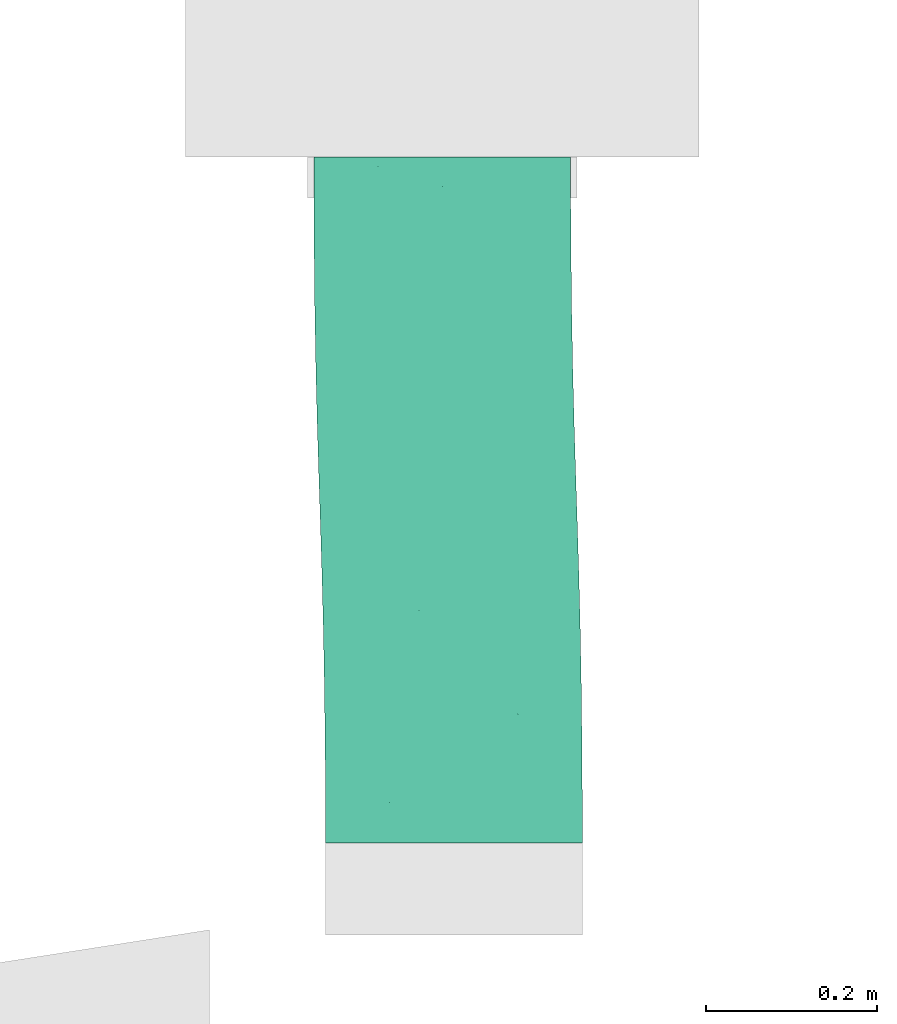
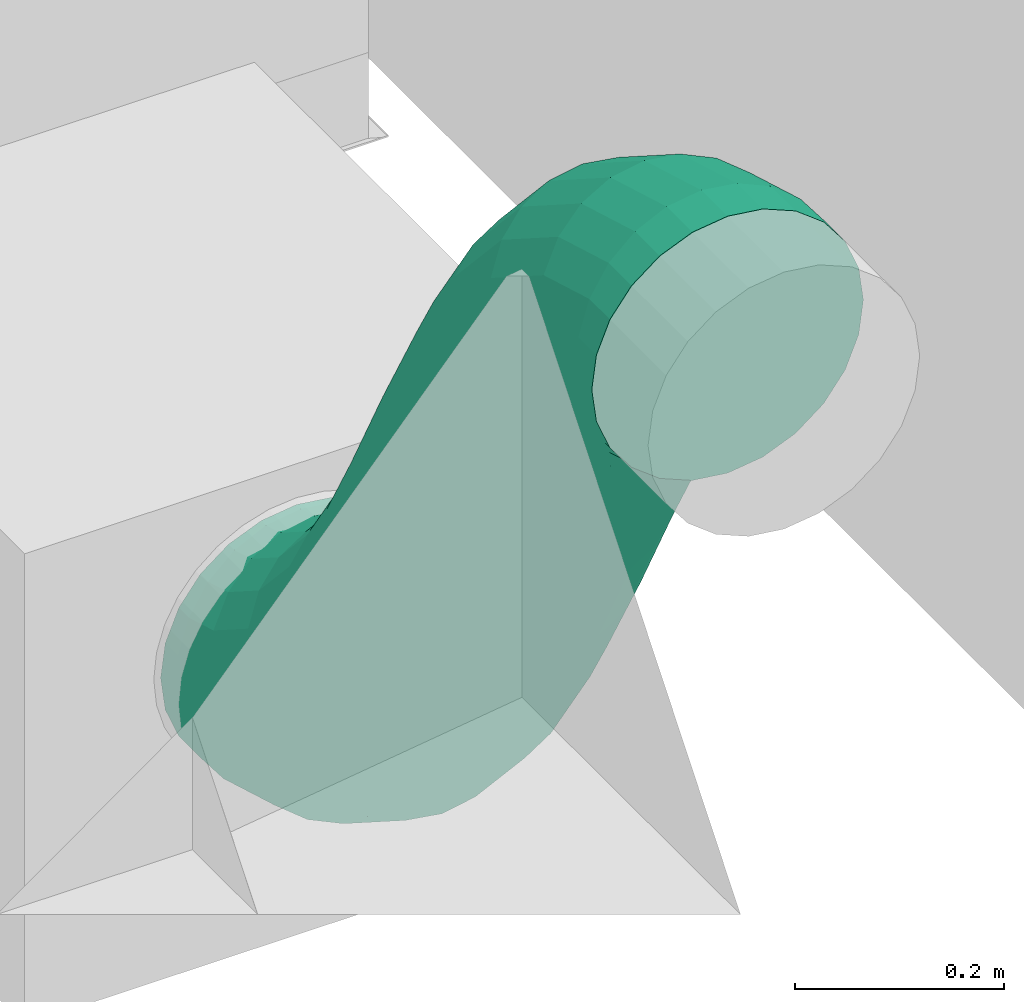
# One storey, part 53 of 60: 1 flow segment.
"""IFC2X3 building model written with IfcOpenShell, lengths in millimetres."""

from ifc_helpers import new_model, entity, si_unit, converted_unit, derived_unit, direction, frame, origin, place, context, subcontext, project, spatial, faceted_brep, type_object, element, save


model = new_model("IFC2X3")

# Units and contexts
model_context = context("Model", 3, precision=0.01, world=origin(), true_north=direction((6.123233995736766e-17, 1.0)))
body_context = subcontext(model_context, "Body", "Model", "MODEL_VIEW")
ifc_project = project(units=[si_unit("LENGTHUNIT", "METRE", prefix="MILLI"), converted_unit("PLANEANGLEUNIT", "DEGREE", entity("IfcPlaneAngleMeasure", 0.017453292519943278), si_unit("PLANEANGLEUNIT", "RADIAN"), dimensions=[0, 0, 0, 0, 0, 0, 0]), si_unit("AREAUNIT", "SQUARE_METRE"), derived_unit("THERMALTRANSMITTANCEUNIT", [(si_unit("MASSUNIT", "GRAM", prefix="KILO"), 1), (si_unit("THERMODYNAMICTEMPERATUREUNIT", "KELVIN"), -1), (si_unit("TIMEUNIT", "SECOND"), -3)])], contexts=[model_context])

# Site, building, storey
site_placement = place(None, origin())
site = spatial("IfcSite", under=ifc_project, at=site_placement, Name="Default", CompositionType="ELEMENT")
building_placement = place(site_placement, origin())
building = spatial("IfcBuilding", under=site, at=building_placement, Name="Praça Pedro II, 1301 - Centro (Sul), Teresina - PI, 64001-100", CompositionType="ELEMENT")
storey_placement = place(building_placement, frame((0.0, 0.0, 6040.0)))
storey = spatial("IfcBuildingStorey", under=building, at=storey_placement, Name="2PAV", CompositionType="ELEMENT", Elevation=6040.0)

# Flow segment
duct_segment_type = type_object("IfcDuctSegmentType", Name="Duto flexível redondo:Flexível - Redondo", PredefinedType="FLEXIBLESEGMENT")
flow_segment_placement = place(storey_placement, frame((29771.730736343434, -57721.82127782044, 2510.904727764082)))
element("IfcFlowSegment", 1, at=flow_segment_placement, inside=storey, type_object=duct_segment_type, Name="Duto flexível redondo:Flexível - Redondo", ObjectType="Duto flexível redondo:Flexível - Redondo", context=body_context, shape_type="Brep", body=[
    faceted_brep([(45.52925505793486, 800.9202829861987, 257.66128941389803), (76.59527223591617, 800.9202829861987, 281.4990828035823), (112.77241547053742, 800.9202829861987, 296.48414617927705), (151.59527223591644, 800.9202829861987, 301.595272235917), (190.41812900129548, 800.9202829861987, 296.48414617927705), (226.59527223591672, 800.9202829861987, 281.4990828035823), (257.66128941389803, 800.9202829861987, 257.66128941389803), (281.49908280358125, 800.9202829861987, 226.59527223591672), (296.48414617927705, 800.9202829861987, 190.4181290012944), (301.595272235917, 800.9202829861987, 151.59527223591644), (296.48414617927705, 800.9202829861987, 112.7724154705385), (281.49908280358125, 800.9202829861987, 76.59527223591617), (257.66128941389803, 800.9202829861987, 45.52925505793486), (226.59527223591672, 800.9202829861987, 21.691461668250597), (190.41812900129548, 800.9202829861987, 6.706398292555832), (151.59527223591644, 800.9202829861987, 1.5952722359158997), (112.77241547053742, 800.9202829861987, 6.706398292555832), (76.59527223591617, 800.9202829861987, 21.691461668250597), (45.52925505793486, 800.9202829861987, 45.529255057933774), (21.69146166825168, 800.9202829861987, 76.59527223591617), (6.706398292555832, 800.9202829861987, 112.77241547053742), (1.5952722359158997, 800.9202829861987, 151.59527223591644), (6.706398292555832, 800.9202829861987, 190.4181290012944), (21.69146166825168, 800.9202829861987, 226.59527223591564), (296.48414617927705, 766.673129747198, 112.7724154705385), (281.49908280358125, 761.5884639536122, 76.59527223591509), (257.66128941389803, 757.1964234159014, 45.529255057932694), (301.595272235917, 772.1039092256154, 151.59527223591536), (226.59527223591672, 753.7963184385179, 21.691461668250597), (190.41812900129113, 751.6198605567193, 6.706398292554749), (151.59527223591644, 750.8153717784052, 1.5952722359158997), (112.77241547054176, 751.4376766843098, 6.706398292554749), (76.59527223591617, 753.4443662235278, 21.691461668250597), (45.52925505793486, 756.6986878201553, 45.529255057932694), (21.69146166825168, 760.9788648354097, 76.59527223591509), (6.706398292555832, 765.9932102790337, 112.7724154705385), (1.5952722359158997, 771.4000047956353, 151.59527223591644), (6.706398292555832, 776.8307842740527, 190.41812900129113), (21.69146166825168, 781.9154500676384, 226.59527223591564), (45.52925505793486, 786.3074906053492, 257.66128941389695), (112.77241547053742, 791.8840534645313, 296.48414617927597), (151.59527223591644, 792.6885422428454, 301.595272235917), (76.59527223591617, 789.7075955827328, 281.49908280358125), (226.59527223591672, 790.0595477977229, 281.4990828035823), (257.66128941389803, 786.8052262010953, 257.6612894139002), (190.41812900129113, 792.0662373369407, 296.4841461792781), (296.48414617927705, 777.5107037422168, 190.41812900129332), (281.49908280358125, 782.525049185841, 226.59527223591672), (59.27175091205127, 0.0, 1075.161289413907), (35.43395752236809, 0.0, 1044.0952722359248), (20.44889414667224, 0.0, 1007.9181290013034), (15.337768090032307, 0.0, 969.0952722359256), (20.44889414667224, 0.0, 930.2724154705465), (35.43395752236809, 0.0, 894.0952722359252), (59.27175091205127, 0.0, 863.0292550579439), (90.33776809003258, 0.0, 839.1914616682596), (126.51491132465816, 0.0, 824.206398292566), (165.33776809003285, 0.0, 819.0952722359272), (204.1606248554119, 0.0, 824.2063982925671), (240.33776809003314, 0.0, 839.1914616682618), (271.4037852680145, 0.0, 863.029255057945), (295.24157865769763, 0.0, 894.0952722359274), (310.2266420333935, 0.0, 930.2724154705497), (315.3377680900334, 0.0, 969.0952722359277), (310.2266420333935, 0.0, 1007.9181290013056), (295.24157865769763, 0.0, 1044.095272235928), (271.4037852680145, 0.0, 1075.1612894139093), (240.33776809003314, 0.0, 1098.9990828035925), (204.1606248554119, 0.0, 1113.984146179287), (165.33776809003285, 0.0, 1119.0952722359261), (126.51491132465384, 0.0, 1113.9841461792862), (90.33776809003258, 0.0, 1098.9990828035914), (301.91203646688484, 705.9177904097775, 170.43862948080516), (296.8519686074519, 689.8186854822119, 134.65307224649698), (281.9147093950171, 674.7456064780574, 101.3196557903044), (258.1182083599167, 661.7257588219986, 72.70999735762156), (227.08415772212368, 651.6464236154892, 50.77379789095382), (190.92747674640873, 645.1944908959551, 37.00597313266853), (152.11218348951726, 642.8096492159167, 32.34477758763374), (113.28347604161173, 644.6544215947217, 37.1078640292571), (77.08746664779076, 650.6030898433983, 50.97063598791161), (45.99085353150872, 660.2502620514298, 72.98836846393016), (22.112819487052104, 672.9384993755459, 101.66058937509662), (7.080613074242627, 687.8031194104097, 135.033334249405), (1.9186543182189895, 703.8311228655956, 170.83230567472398), (6.978722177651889, 719.9302277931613, 206.61786290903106), (21.915981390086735, 735.0033067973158, 239.95127936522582), (45.71248242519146, 748.0231544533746, 268.56093779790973), (112.90321403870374, 764.554422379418, 304.2649620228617), (151.71850729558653, 766.9392640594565, 308.92615756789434), (76.74653306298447, 758.102489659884, 290.4971372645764), (226.7432241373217, 759.1458234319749, 290.30029916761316), (257.8398372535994, 749.4986512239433, 268.28256669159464), (190.54721474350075, 765.0944916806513, 304.1630711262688), (296.7500777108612, 721.9457938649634, 206.237600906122), (281.7178712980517, 736.8104138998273, 239.6103457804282), (302.78332578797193, 624.4051544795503, 222.2690267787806), (297.8209422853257, 599.1672833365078, 192.2944199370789), (282.9751418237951, 575.5378686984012, 164.40161118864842), (259.2576411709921, 555.127216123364, 140.4914493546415), (228.2847488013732, 539.3262778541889, 122.19337245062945), (192.16721614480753, 529.2118617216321, 110.75436417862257), (153.36639336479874, 525.473248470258, 106.95397404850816), (114.52649241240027, 528.3652184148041, 111.05119236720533), (78.29438835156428, 537.6906885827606, 122.76680047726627), (47.13923919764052, 552.8141435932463, 141.30239904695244), (23.184216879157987, 572.7049449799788, 165.3948176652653), (8.061816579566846, 596.0075674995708, 193.40219781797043), (2.8026048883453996, 621.1339759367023, 223.41588283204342), (7.764988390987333, 646.371847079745, 253.3904896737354), (22.61078885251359, 670.0012617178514, 281.2832984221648), (46.3282895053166, 690.4119142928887, 305.19346025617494), (77.3011818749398, 706.2128525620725, 323.4915371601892), (113.41871453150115, 716.3272686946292, 334.930545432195), (152.21953731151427, 720.0658819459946, 338.73093556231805), (191.05943826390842, 717.1739120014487, 334.63371724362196), (227.29154232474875, 707.8484418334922, 322.918109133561), (258.4466914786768, 692.7249868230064, 304.3825105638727), (297.5241140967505, 649.5315629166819, 252.28271179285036), (282.40171379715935, 672.834185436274, 280.2900919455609), (304.08796259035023, 553.5035605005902, 299.8779703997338), (299.2278929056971, 522.7053581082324, 275.9897067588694), (284.4778856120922, 493.8699824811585, 253.79534723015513), (260.84312933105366, 468.96251681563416, 234.80740073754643), (229.9342936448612, 449.68036373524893, 220.31986445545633), (193.8577646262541, 437.33757010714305, 211.32004003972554), (155.0720981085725, 432.7752769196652, 208.4212506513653), (116.22047316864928, 436.30439691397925, 211.82104399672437), (79.9505638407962, 447.6844263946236, 221.2877297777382), (48.73410450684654, 466.13983515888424, 236.17616900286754), (24.698445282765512, 490.41291759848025, 255.47173914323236), (9.481576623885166, 518.8495032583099, 277.85947898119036), (4.120502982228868, 549.5116858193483, 301.8137010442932), (8.980572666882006, 580.309888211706, 325.70196468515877), (23.73057996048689, 609.1452638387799, 347.896324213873), (47.36533624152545, 634.0527295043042, 366.8842707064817), (78.27417192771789, 653.3348825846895, 381.37180698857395), (114.35070094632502, 665.6776762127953, 390.3716314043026), (153.1363674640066, 670.2399694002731, 393.27042079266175), (191.98799240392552, 666.7108494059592, 389.8706274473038), (228.25790173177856, 655.3308199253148, 380.4039416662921), (259.47436106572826, 636.8754111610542, 365.51550244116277), (298.72688894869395, 584.1657430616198, 323.8321924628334), (283.5100202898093, 612.6023287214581, 346.2199323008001), (305.7047393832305, 490.15267587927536, 396.05518902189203), (300.9100773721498, 456.7915755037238, 376.057832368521), (286.22130919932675, 425.55664015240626, 357.50640508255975), (262.6394501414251, 398.57647905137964, 341.6651562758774), (231.7715649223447, 377.68974559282, 329.61364087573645), (195.72124890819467, 364.3198361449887, 322.17314974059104), (156.94527155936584, 359.3778879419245, 319.85074004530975), (118.08615165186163, 363.20068658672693, 322.8046801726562), (81.7920739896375, 375.5277146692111, 330.8336639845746), (50.536419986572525, 395.5189055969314, 343.3905295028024), (26.44921081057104, 421.8118927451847, 359.6195470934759), (11.171949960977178, 452.6148524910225, 378.4147360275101), (5.745757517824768, 485.8286140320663, 398.49523523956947), (10.54041952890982, 519.1897144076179, 418.4925918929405), (25.229187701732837, 550.4246497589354, 437.04401917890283), (48.81104675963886, 577.4048108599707, 452.88526798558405), (79.67893197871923, 598.2915443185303, 464.9367833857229), (115.72924799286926, 611.6614537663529, 472.37727452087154), (154.50522534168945, 616.6034019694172, 474.6996842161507), (193.36434524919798, 612.7806033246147, 471.7457440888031), (229.65842291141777, 600.4535752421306, 463.7167602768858), (260.91407691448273, 580.4623843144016, 451.1598947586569), (300.2785469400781, 523.3664374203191, 416.1356882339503), (285.00128609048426, 554.169397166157, 434.93087716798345), (307.5096259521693, 431.3471226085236, 503.42249593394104), (302.7454857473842, 396.99158206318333, 485.2407903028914), (288.08529416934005, 364.82558406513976, 468.38929922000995), (264.528119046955, 337.0411882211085, 454.0164239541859), (233.67934293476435, 315.53185519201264, 443.10165220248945), (197.64125894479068, 301.7634104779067, 436.3888076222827), (158.86980294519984, 296.6741508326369, 434.33535947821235), (120.0071855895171, 300.6109008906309, 437.08124686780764), (83.70183002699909, 313.30537764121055, 444.4393421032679), (52.42788624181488, 333.8924734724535, 455.908203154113), (28.31662182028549, 360.9692118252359, 470.70624609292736), (13.01117958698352, 392.6903577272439, 487.8250087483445), (7.554600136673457, 426.89416750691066, 506.097875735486), (12.318740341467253, 461.2497080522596, 524.2795813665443), (26.97893191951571, 493.4157060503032, 541.1310724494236), (50.5361070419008, 521.2001018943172, 555.5039477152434), (81.38488315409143, 542.7094349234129, 566.4187194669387), (117.42296714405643, 556.4778796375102, 573.1315640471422), (156.19442314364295, 561.5671392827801, 575.1850121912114), (195.05704049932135, 557.6303892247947, 572.4391248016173), (231.3623960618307, 544.9359124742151, 565.0810295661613), (262.63633984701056, 524.3488166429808, 553.6121685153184), (302.0530465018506, 465.55093238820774, 521.6953629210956), (286.7476042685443, 497.27207829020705, 538.8141255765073), (304.61429998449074, 339.6705749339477, 596.4109631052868), (289.9541084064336, 307.5045769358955, 579.5594720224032), (309.3784401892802, 374.02611547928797, 614.5926687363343), (266.39693328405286, 279.72018109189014, 565.1865967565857), (235.5481571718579, 258.21084806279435, 554.2718250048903), (199.51007318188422, 244.4424033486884, 547.55898042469), (160.73861718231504, 239.35314370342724, 545.5055322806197), (121.87599982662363, 243.28989376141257, 548.251419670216), (85.57064426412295, 255.9843705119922, 555.6095149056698), (54.29670047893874, 276.5714663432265, 567.078375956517), (14.879993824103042, 335.3693505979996, 598.9951815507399), (9.423414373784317, 369.5731603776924, 617.2680485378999), (30.185436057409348, 303.6482046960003, 581.8764188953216), (14.18755457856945, 403.9287009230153, 635.4497541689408), (28.847746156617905, 436.0946989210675, 652.3012452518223), (52.40492127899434, 463.8790947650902, 666.6741205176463), (83.25369739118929, 485.3884277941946, 677.5888922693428), (119.29178138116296, 499.15687250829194, 684.3017368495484), (158.0632373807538, 504.24613215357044, 686.3551849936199), (196.92585473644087, 500.30938209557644, 683.6092976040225), (233.23121029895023, 487.61490534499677, 676.2512023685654), (264.5051540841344, 467.0278095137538, 664.7823413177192), (288.61641850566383, 439.95107116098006, 649.9842983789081), (303.9218607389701, 408.2299252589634, 632.8655357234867), (306.3926207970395, 281.7305685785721, 702.197952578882), (291.7038526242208, 250.49563322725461, 683.646525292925), (311.18728280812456, 315.09166895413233, 722.1953092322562), (268.12199356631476, 223.51547212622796, 667.8052764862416), (237.25410834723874, 202.62873866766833, 655.7537610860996), (201.20379233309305, 189.25882921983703, 648.3132699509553), (162.42781498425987, 184.3168810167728, 645.990860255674), (123.56869507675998, 188.1396796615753, 648.9448003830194), (87.27461741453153, 200.46670774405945, 656.9737841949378), (56.018963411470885, 220.45789867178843, 669.5306497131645), (16.654493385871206, 277.55384556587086, 704.5548562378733), (11.228300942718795, 310.7676071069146, 724.6353554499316), (31.931754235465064, 246.75088582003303, 685.759667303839), (16.022962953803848, 344.1287074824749, 744.6327121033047), (30.711731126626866, 375.36364283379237, 763.184139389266), (54.29359018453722, 402.34380393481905, 779.0253881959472), (85.16147540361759, 423.23053739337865, 791.0769035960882), (121.21179141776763, 436.60044684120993, 798.5173947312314), (159.98776876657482, 441.5423950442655, 800.8398044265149), (198.84688867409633, 437.719596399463, 797.885864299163), (235.14096633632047, 425.39256831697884, 789.8568804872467), (266.3966203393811, 405.4013773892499, 777.3000149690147), (290.4838295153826, 379.1083902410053, 761.0709973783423), (305.7610903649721, 348.3054304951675, 742.2758084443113), (307.952467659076, 220.6103947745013, 794.9885797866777), (293.2024603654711, 191.77501914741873, 772.7942202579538), (312.8125373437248, 251.40859716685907, 818.87684342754), (269.56770408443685, 166.86755348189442, 753.806273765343), (238.6588683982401, 147.5854004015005, 739.3187374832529), (202.58233937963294, 135.2426067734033, 730.3189130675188), (163.79667286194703, 130.6803135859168, 727.4201236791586), (124.94504792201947, 134.20943358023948, 730.8199170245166), (88.6751385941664, 145.58946306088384, 740.2866028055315), (57.45867926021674, 164.04487182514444, 755.1750420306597), (18.206151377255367, 216.7545399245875, 796.8583520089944), (12.8450777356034, 247.4167224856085, 820.8125740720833), (33.423020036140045, 188.3179542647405, 774.4706121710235), (17.705147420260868, 278.2149248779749, 844.7008377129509), (32.45515471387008, 307.0503005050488, 866.8951972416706), (56.08991099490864, 331.95776617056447, 885.8831437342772), (86.99874668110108, 351.2399192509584, 900.3706800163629), (123.07527569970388, 363.58271287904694, 909.3705044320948), (161.86094221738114, 368.1450060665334, 912.2692938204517), (200.7125671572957, 364.61588607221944, 908.8695004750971), (236.98247648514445, 353.23585659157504, 899.4028146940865), (268.1989358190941, 334.78044782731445, 884.5143754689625), (292.23459504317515, 310.507365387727, 865.218805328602), (307.45146370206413, 282.0707797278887, 842.8310654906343), (309.16805193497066, 154.5484359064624, 867.3000547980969), (294.3222514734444, 130.91902126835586, 839.4072460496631), (314.13043543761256, 179.78630704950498, 897.274661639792), (270.60475082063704, 110.50836869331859, 815.497084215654), (239.63185845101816, 94.70743042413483, 797.1990073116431), (203.51432579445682, 84.59301429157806, 785.7599990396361), (164.71350301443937, 80.85440104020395, 781.9596089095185), (125.87360206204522, 83.74637098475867, 786.0568272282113), (89.64149800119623, 93.07184115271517, 797.7724353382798), (58.486348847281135, 108.19529616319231, 816.3080339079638), (19.408926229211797, 151.38872006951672, 868.4078326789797), (14.149714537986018, 176.51512850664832, 898.4215176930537), (34.531326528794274, 128.08609754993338, 840.4004525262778), (19.112098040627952, 201.75299964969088, 928.3961245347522), (33.957898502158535, 225.38241428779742, 956.2889332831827), (57.675399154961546, 245.7930668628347, 980.1990951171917), (88.64829152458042, 261.5940051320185, 998.4971720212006), (124.76582418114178, 271.70842126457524, 1009.9361802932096), (163.5666469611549, 275.4470345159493, 1013.7365704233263), (202.40654791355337, 272.5550645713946, 1009.6393521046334), (238.6386519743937, 263.2295944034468, 997.9237439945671), (269.79380112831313, 248.10613939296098, 979.3881454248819), (293.7488234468, 228.2153380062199, 955.2957268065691), (308.8712237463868, 204.91271548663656, 927.2883466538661), (309.95431814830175, 80.99005519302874, 914.0726815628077), (295.01705893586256, 65.9169761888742, 880.7392651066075), (315.014386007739, 97.08916012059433, 949.8582387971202), (271.2205579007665, 52.897128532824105, 852.1296066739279), (240.18650726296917, 42.81779332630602, 830.1934072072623), (204.0298262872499, 36.36586060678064, 816.4255824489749), (165.2145330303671, 33.98101892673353, 811.7643869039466), (126.38582558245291, 35.82579130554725, 816.5274733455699), (90.18981618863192, 41.774459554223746, 830.3902453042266), (59.093203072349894, 51.42163176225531, 852.4079777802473), (20.18296261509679, 78.97448912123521, 914.4529435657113), (15.021003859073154, 95.00249257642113, 950.2519149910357), (35.215169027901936, 64.1098690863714, 881.0801986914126), (20.081071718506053, 111.10159750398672, 986.0374722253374), (35.01833093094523, 126.17467650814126, 1019.3708886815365), (58.81483196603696, 139.19452416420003, 1047.980547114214), (89.84888260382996, 149.27385937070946, 1069.9167465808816), (126.00556357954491, 155.7257920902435, 1083.684571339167), (164.82085683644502, 158.11063377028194, 1088.3457668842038), (203.64956428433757, 156.26586139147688, 1083.5826804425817), (239.84557367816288, 150.3171931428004, 1069.7199084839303), (270.94218679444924, 140.67002093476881, 1047.7021760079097), (294.82022083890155, 127.98178361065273, 1019.0299550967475), (309.852427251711, 113.11716357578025, 985.6572102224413), (310.22664203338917, 24.08949871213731, 930.2724154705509), (295.24157865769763, 19.004832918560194, 894.0952722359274), (315.3377680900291, 29.52027819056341, 969.0952722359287), (271.4037852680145, 14.612792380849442, 863.029255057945), (204.1606248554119, 9.036229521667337, 824.2063982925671), (165.33776809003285, 8.231740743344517, 819.0952722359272), (240.33776809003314, 11.212687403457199, 839.191461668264), (90.33776809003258, 10.86073518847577, 839.1914616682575), (59.27175091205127, 14.115056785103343, 863.0292550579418), (126.51491132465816, 8.854045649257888, 824.2063982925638), (20.448894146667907, 23.409579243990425, 930.2724154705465), (15.337768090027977, 28.816373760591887, 969.0952722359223), (35.433957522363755, 18.395233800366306, 894.095272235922), (20.448894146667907, 34.24715323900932, 1007.9181290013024), (35.433957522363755, 39.33181903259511, 1044.095272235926), (59.27175091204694, 43.723859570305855, 1075.1612894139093), (90.33776809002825, 47.12396454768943, 1098.9990828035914), (126.51491132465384, 49.3004224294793, 1113.984146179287), (165.33776809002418, 50.10491120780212, 1119.095272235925), (204.1606248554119, 49.482606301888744, 1113.984146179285), (240.33776809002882, 47.475916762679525, 1098.9990828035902), (271.4037852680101, 44.22159516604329, 1075.1612894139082), (295.2415786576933, 39.94141815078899, 1044.095272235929), (310.22664203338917, 34.927072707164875, 1007.9181290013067)], [[[0, 1, 2, 3, 4, 5, 6, 7, 8, 9, 10, 11, 12, 13, 14, 15, 16, 17, 18, 19, 20, 21, 22, 23]], [[11, 10, 24, 25]], [[12, 11, 25, 26]], [[9, 27, 24, 10]], [[14, 13, 28, 29]], [[15, 14, 29, 30]], [[12, 26, 28, 13]], [[15, 30, 31, 16]], [[16, 31, 32, 17]], [[17, 32, 33, 18]], [[19, 34, 35, 20]], [[20, 35, 36, 21]], [[18, 33, 34, 19]], [[37, 38, 23, 22]], [[36, 37, 22, 21]], [[23, 38, 39, 0]], [[40, 41, 3, 2]], [[42, 40, 2, 1]], [[0, 39, 42, 1]], [[5, 43, 44, 6]], [[45, 43, 5, 4]], [[3, 41, 45, 4]], [[46, 27, 9, 8]], [[47, 46, 8, 7]], [[44, 47, 7, 6]], [[48, 49, 50, 51, 52, 53, 54, 55, 56, 57, 58, 59, 60, 61, 62, 63, 64, 65, 66, 67, 68, 69, 70, 71]], [[24, 27, 72, 73]], [[25, 24, 73, 74]], [[26, 25, 74, 75]], [[29, 28, 76, 77]], [[30, 29, 77, 78]], [[75, 76, 28, 26]], [[30, 78, 79, 31]], [[31, 79, 80, 32]], [[32, 80, 81, 33]], [[33, 81, 82, 34]], [[34, 82, 83, 35]], [[84, 36, 35, 83]], [[85, 86, 38, 37]], [[84, 85, 37, 36]], [[38, 86, 87, 39]], [[88, 89, 41, 40]], [[90, 88, 40, 42]], [[42, 39, 87, 90]], [[43, 91, 92, 44]], [[93, 91, 43, 45]], [[41, 89, 93, 45]], [[94, 72, 27, 46]], [[95, 94, 46, 47]], [[44, 92, 95, 47]], [[72, 96, 97, 73]], [[73, 97, 98, 74]], [[99, 75, 74, 98]], [[76, 100, 101, 77]], [[77, 101, 102, 78]], [[100, 76, 75, 99]], [[79, 78, 102, 103]], [[80, 79, 103, 104]], [[104, 105, 81, 80]], [[82, 81, 105, 106]], [[83, 82, 106, 107]], [[84, 83, 107, 108]], [[109, 110, 86, 85]], [[108, 109, 85, 84]], [[87, 86, 110, 111]], [[112, 113, 88, 90]], [[111, 112, 90, 87]], [[89, 88, 113, 114]], [[115, 116, 91, 93]], [[114, 115, 93, 89]], [[117, 92, 91, 116]], [[118, 96, 72, 94]], [[119, 118, 94, 95]], [[119, 95, 92, 117]], [[96, 120, 121, 97]], [[97, 121, 122, 98]], [[123, 99, 98, 122]], [[100, 124, 125, 101]], [[101, 125, 126, 102]], [[124, 100, 99, 123]], [[103, 102, 126, 127]], [[104, 103, 127, 128]], [[128, 129, 105, 104]], [[106, 105, 129, 130]], [[107, 106, 130, 131]], [[108, 107, 131, 132]], [[133, 134, 110, 109]], [[132, 133, 109, 108]], [[111, 110, 134, 135]], [[136, 137, 113, 112]], [[135, 136, 112, 111]], [[114, 113, 137, 138]], [[139, 140, 116, 115]], [[138, 139, 115, 114]], [[141, 117, 116, 140]], [[142, 120, 96, 118]], [[143, 142, 118, 119]], [[143, 119, 117, 141]], [[120, 144, 145, 121]], [[121, 145, 146, 122]], [[147, 123, 122, 146]], [[124, 148, 149, 125]], [[125, 149, 150, 126]], [[148, 124, 123, 147]], [[127, 126, 150, 151]], [[128, 127, 151, 152]], [[152, 153, 129, 128]], [[130, 129, 153, 154]], [[131, 130, 154, 155]], [[132, 131, 155, 156]], [[157, 158, 134, 133]], [[156, 157, 133, 132]], [[135, 134, 158, 159]], [[160, 161, 137, 136]], [[159, 160, 136, 135]], [[138, 137, 161, 162]], [[163, 164, 140, 139]], [[162, 163, 139, 138]], [[165, 141, 140, 164]], [[166, 144, 120, 142]], [[167, 166, 142, 143]], [[167, 143, 141, 165]], [[144, 168, 169, 145]], [[145, 169, 170, 146]], [[171, 147, 146, 170]], [[148, 172, 173, 149]], [[149, 173, 174, 150]], [[172, 148, 147, 171]], [[151, 150, 174, 175]], [[152, 151, 175, 176]], [[176, 177, 153, 152]], [[154, 153, 177, 178]], [[155, 154, 178, 179]], [[156, 155, 179, 180]], [[181, 182, 158, 157]], [[180, 181, 157, 156]], [[159, 158, 182, 183]], [[184, 185, 161, 160]], [[183, 184, 160, 159]], [[162, 161, 185, 186]], [[187, 188, 164, 163]], [[186, 187, 163, 162]], [[189, 165, 164, 188]], [[190, 168, 144, 166]], [[191, 190, 166, 167]], [[191, 167, 165, 189]], [[192, 193, 170, 169]], [[194, 192, 169, 168]], [[195, 171, 170, 193]], [[196, 197, 173, 172]], [[196, 172, 171, 195]], [[198, 174, 173, 197]], [[199, 200, 176, 175]], [[198, 199, 175, 174]], [[200, 201, 177, 176]], [[202, 203, 180, 179]], [[204, 202, 179, 178]], [[201, 204, 178, 177]], [[181, 180, 203, 205]], [[182, 181, 205, 206]], [[183, 182, 206, 207]], [[185, 184, 208, 209]], [[186, 185, 209, 210]], [[207, 208, 184, 183]], [[186, 210, 211, 187]], [[187, 211, 212, 188]], [[213, 189, 188, 212]], [[189, 213, 214, 191]], [[191, 214, 215, 190]], [[194, 168, 190, 215]], [[216, 217, 193, 192]], [[218, 216, 192, 194]], [[219, 195, 193, 217]], [[220, 221, 197, 196]], [[220, 196, 195, 219]], [[222, 198, 197, 221]], [[223, 224, 200, 199]], [[222, 223, 199, 198]], [[201, 200, 224, 225]], [[226, 227, 203, 202]], [[228, 226, 202, 204]], [[225, 228, 204, 201]], [[205, 203, 227, 229]], [[206, 205, 229, 230]], [[207, 206, 230, 231]], [[209, 208, 232, 233]], [[210, 209, 233, 234]], [[231, 232, 208, 207]], [[210, 234, 235, 211]], [[211, 235, 236, 212]], [[212, 236, 237, 213]], [[213, 237, 238, 214]], [[214, 238, 239, 215]], [[218, 194, 215, 239]], [[240, 241, 217, 216]], [[242, 240, 216, 218]], [[243, 219, 217, 241]], [[244, 245, 221, 220]], [[244, 220, 219, 243]], [[246, 222, 221, 245]], [[247, 248, 224, 223]], [[246, 247, 223, 222]], [[225, 224, 248, 249]], [[250, 251, 227, 226]], [[252, 250, 226, 228]], [[249, 252, 228, 225]], [[229, 227, 251, 253]], [[230, 229, 253, 254]], [[231, 230, 254, 255]], [[233, 232, 256, 257]], [[234, 233, 257, 258]], [[255, 256, 232, 231]], [[234, 258, 259, 235]], [[235, 259, 260, 236]], [[236, 260, 261, 237]], [[237, 261, 262, 238]], [[238, 262, 263, 239]], [[242, 218, 239, 263]], [[264, 265, 241, 240]], [[266, 264, 240, 242]], [[267, 243, 241, 265]], [[268, 269, 245, 244]], [[268, 244, 243, 267]], [[270, 246, 245, 269]], [[271, 272, 248, 247]], [[270, 271, 247, 246]], [[249, 248, 272, 273]], [[274, 275, 251, 250]], [[276, 274, 250, 252]], [[273, 276, 252, 249]], [[253, 251, 275, 277]], [[254, 253, 277, 278]], [[255, 254, 278, 279]], [[257, 256, 280, 281]], [[258, 257, 281, 282]], [[279, 280, 256, 255]], [[258, 282, 283, 259]], [[259, 283, 284, 260]], [[260, 284, 285, 261]], [[261, 285, 286, 262]], [[262, 286, 287, 263]], [[266, 242, 263, 287]], [[288, 289, 265, 264]], [[290, 288, 264, 266]], [[291, 267, 265, 289]], [[292, 293, 269, 268]], [[292, 268, 267, 291]], [[294, 270, 269, 293]], [[295, 296, 272, 271]], [[294, 295, 271, 270]], [[273, 272, 296, 297]], [[298, 299, 275, 274]], [[300, 298, 274, 276]], [[297, 300, 276, 273]], [[277, 275, 299, 301]], [[278, 277, 301, 302]], [[279, 278, 302, 303]], [[281, 280, 304, 305]], [[282, 281, 305, 306]], [[303, 304, 280, 279]], [[282, 306, 307, 283]], [[283, 307, 308, 284]], [[284, 308, 309, 285]], [[285, 309, 310, 286]], [[286, 310, 311, 287]], [[290, 266, 287, 311]], [[312, 313, 289, 288]], [[314, 312, 288, 290]], [[291, 289, 313, 315]], [[316, 317, 294, 293]], [[318, 316, 293, 292]], [[291, 315, 318, 292]], [[319, 320, 297, 296]], [[321, 319, 296, 295]], [[317, 321, 295, 294]], [[322, 323, 299, 298]], [[324, 322, 298, 300]], [[300, 297, 320, 324]], [[299, 323, 325, 301]], [[301, 325, 326, 302]], [[327, 303, 302, 326]], [[304, 328, 329, 305]], [[305, 329, 330, 306]], [[328, 304, 303, 327]], [[307, 306, 330, 331]], [[308, 307, 331, 332]], [[332, 333, 309, 308]], [[310, 309, 333, 334]], [[311, 310, 334, 335]], [[290, 311, 335, 314]], [[312, 314, 63, 62]], [[313, 312, 62, 61]], [[315, 313, 61, 60]], [[58, 57, 317, 316]], [[59, 58, 316, 318]], [[315, 60, 59, 318]], [[317, 57, 56, 321]], [[321, 56, 55, 319]], [[319, 55, 54, 320]], [[324, 53, 52, 322]], [[322, 52, 51, 323]], [[324, 320, 54, 53]], [[323, 51, 50, 325]], [[325, 50, 49, 326]], [[326, 49, 48, 327]], [[328, 71, 70, 329]], [[329, 70, 69, 330]], [[327, 48, 71, 328]], [[331, 330, 69, 68]], [[332, 331, 68, 67]], [[333, 332, 67, 66]], [[335, 334, 65, 64]], [[314, 335, 64, 63]], [[66, 65, 334, 333]]]),
])

save(model, "model.ifc")
